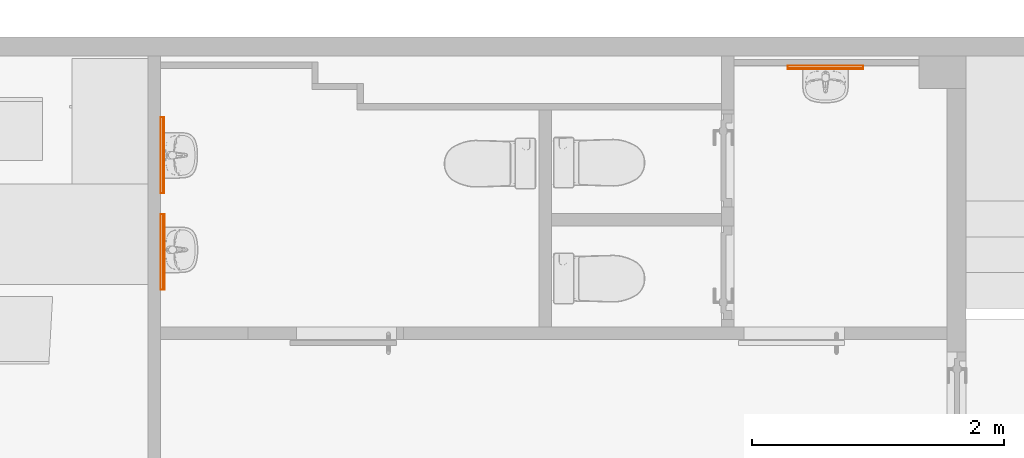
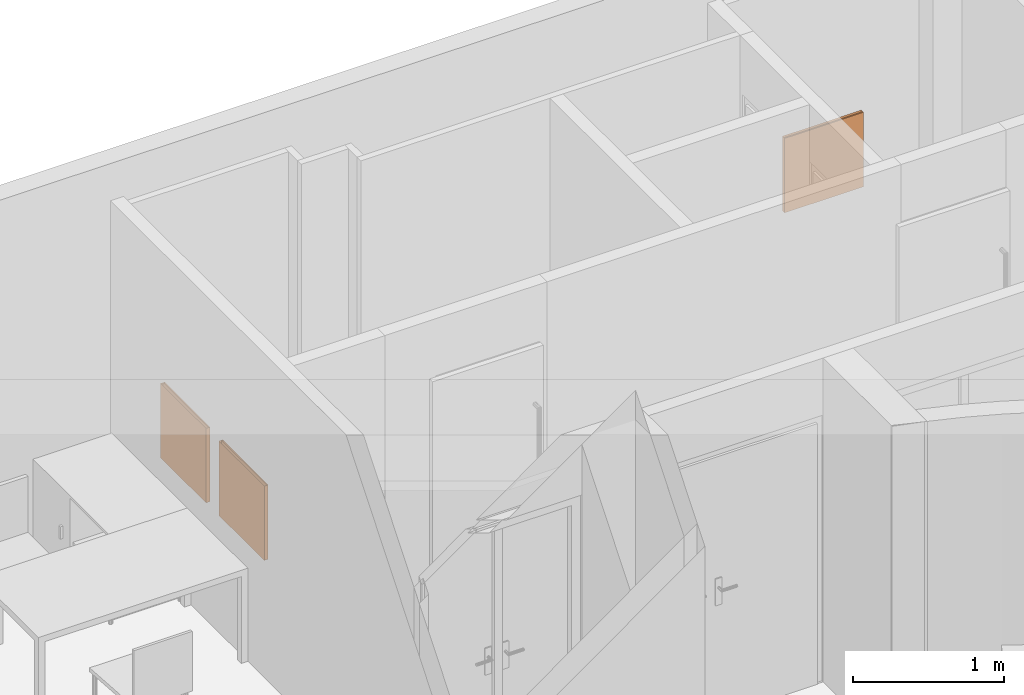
"""IFC4 building model written with IfcOpenShell, lengths in metres."""

from ifc_helpers import new_model, entity, si_unit, converted_unit, derived_unit, frame, origin, origin_with_axes, place, context, subcontext, project, spatial, open_shell, surface_model, source, transform, mapped, element, save


model = new_model("IFC4")

# Units and contexts
model_context = context("Model", 3, precision=1e-05, world=origin())
body_context = subcontext(model_context, "Body", "Model", "MODEL_VIEW")
ifc_project = project(units=[si_unit("LENGTHUNIT", "METRE"), si_unit("AREAUNIT", "SQUARE_METRE"), si_unit("VOLUMEUNIT", "CUBIC_METRE"), si_unit("MASSUNIT", "GRAM", prefix="KILO"), converted_unit("PLANEANGLEUNIT", "DEGREE", entity("IfcPlaneAngleMeasure", 0.0174532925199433), si_unit("PLANEANGLEUNIT", "RADIAN"), dimensions=[0, 0, 0, 0, 0, 0, 0]), derived_unit("THERMALTRANSMITTANCEUNIT", [(si_unit("POWERUNIT", "WATT"), 1), (si_unit("THERMODYNAMICTEMPERATUREUNIT", "KELVIN"), -1), (si_unit("LENGTHUNIT", "METRE"), -2)]), derived_unit("VOLUMETRICFLOWRATEUNIT", [(si_unit("LENGTHUNIT", "METRE"), 3), (converted_unit("TIMEUNIT", "hour", entity("IfcTimeMeasure", 3600.0), si_unit("TIMEUNIT", "SECOND"), dimensions=[0, 0, 1, 0, 0, 0, 0]), -1), (si_unit("LENGTHUNIT", "METRE"), -1)])], contexts=[model_context])

# Building, storeys
building_placement = place(None, origin())
building = spatial("IfcBuilding", under=ifc_project, at=building_placement, Name="HABITATGE PLURIFAMILIAR", CompositionType="ELEMENT")
storey_1_placement = place(building_placement, frame((0.0, 0.0, 6.25)))
storey_1 = spatial("IfcBuildingStorey", under=building, at=storey_1_placement, Name="PLANTA PRIMERA", CompositionType="ELEMENT", Elevation=6.25)
storey_2_placement = place(storey_1_placement, frame((0.0, 0.0, 3.35)))
storey_2 = spatial("IfcBuildingStorey", under=storey_1, at=storey_2_placement, Name="NOU", CompositionType="PARTIAL")

# Proxies
shared_shape = source(origin_with_axes(), body_context, "Body", "SurfaceModel", [
    surface_model("IfcShellBasedSurfaceModel", [(0.6, 0.01, 0.6), (0.6, 0.01, 0.0), (0.0, 0.01, 0.0), (0.0, 0.01, 0.6), (0.0, 0.03, 0.0), (0.0, 0.03, 0.6), (0.6, 0.03, 0.0), (0.6, 0.03, 0.6)], [open_shell([[[0, 1, 2, 3]], [[3, 2, 4, 5]], [[5, 4, 6, 7]], [[7, 6, 1, 0]]], orient=[[False], [False], [False], [False]])]),
    surface_model("IfcShellBasedSurfaceModel", [(0.0, 0.0, 0.0), (0.6, 0.0, 0.0), (0.6, 0.01, 0.0), (0.0, 0.01, 0.0), (0.0, 0.0, 0.6), (0.6, 0.0, 0.6), (0.6, 0.01, 0.6), (0.0, 0.01, 0.6)], [open_shell([[[0, 1, 2, 3]], [[0, 4, 5, 1]], [[1, 5, 6, 2]], [[2, 6, 7, 3]], [[3, 7, 4, 0]]], orient=[[False], [False], [False], [False], [False]])]),
])
proxy_placement = place(storey_2_placement, frame((409.414317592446, 27.9712997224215, -2.55)))
element("IfcBuildingElementProxy", 1, at=proxy_placement, inside=storey_2, Name="Mirall P1", context=body_context, shape_type="MappedRepresentation", body=[
    mapped(shared_shape, transform((0.0, 0.0, 0.0), x_axis=(1.0, 0.0, 0.0), y_axis=(0.0, 1.0, 0.0), z_axis=(0.0, 0.0, 1.0), scale=1.0)),
])
for number, where, z_axis, x_axis, name in (
    (2, (404.466984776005, 26.9905155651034, -2.55), (0.0, 0.0, 1.0), (1.22464679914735e-16, 1.0, 0.0), "Mirall P1"),
    (3, (404.468308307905, 26.2238560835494, -2.55), (0.0, 0.0, 1.0), (1.22464679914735e-16, 1.0, 0.0), "Mirall P1"),
):
    element("IfcBuildingElementProxy", number, at=place(storey_2_placement, frame(where, z_axis=z_axis, x_axis=x_axis)), inside=storey_2, Name=name, context=body_context, shape_type="MappedRepresentation", body=[
        mapped(shared_shape, transform((0.0, 0.0, 0.0), x_axis=(1.0, 0.0, 0.0), y_axis=(0.0, 1.0, 0.0), z_axis=(0.0, 0.0, 1.0), scale=1.0)),
    ])

save(model, "model.ifc")
